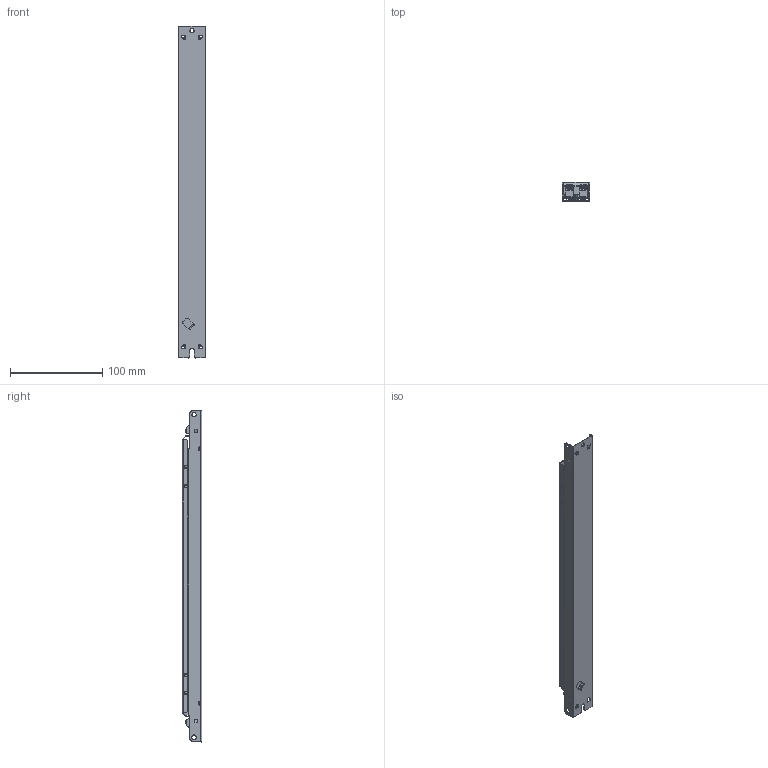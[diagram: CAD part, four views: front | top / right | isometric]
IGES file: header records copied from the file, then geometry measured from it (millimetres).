
Start section: SolidWorks IGES file using analytic representation for surfaces
Global section: file name: C:\Users\vuorinen_kari\Desktop\prj\LL1x150-CR-DA\LL1x150-CR-DA.IGS; native system: SolidWorks 2014; preprocessor: SolidWorks 2014; author: vuorinen_kari; date: 171010.145533; units: millimetre
Bounding box: 30 x 21 x 360 mm (x, y, z)
Surface area: 96340.1 mm2 (no closed solid volume)
Topology: 0 solids, 0 shells, 1210 faces, 8739 edges, 8727 vertices
Faces by surface type: bspline 809, revolution 401
